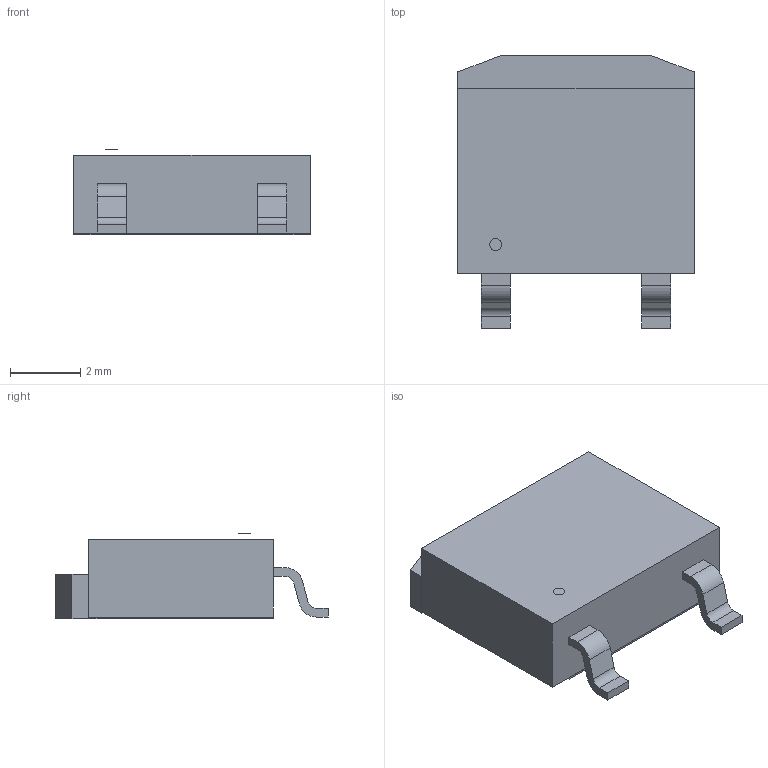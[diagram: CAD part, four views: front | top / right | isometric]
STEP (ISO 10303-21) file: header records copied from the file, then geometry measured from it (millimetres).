
FILE_DESCRIPTION(('STEP AP214'),'1');
FILE_NAME('TD03B_TEX','2022-02-26T21:29:32',(''),(''),'','','');
FILE_SCHEMA(('AUTOMOTIVE_DESIGN'));
Length unit declared in the file: millimetre
Products named in the file (1): product
Bounding box: 6.73 x 7.76 x 2.44 mm (x, y, z)
Volume: 88 mm3; surface area: 221.5 mm2
Topology: 5 solids, 5 shells, 53 faces, 129 edges, 86 vertices
Faces by surface type: plane 44, cylinder 9
Full cylindrical faces by diameter (mm): 0.337 x1
Entity records: 1518 total; most frequent: DIRECTION 256, ORIENTED_EDGE 256, CARTESIAN_POINT 151, EDGE_CURVE 128, LINE 110, VECTOR 110, VERTEX_POINT 86, AXIS2_PLACEMENT_3D 73
